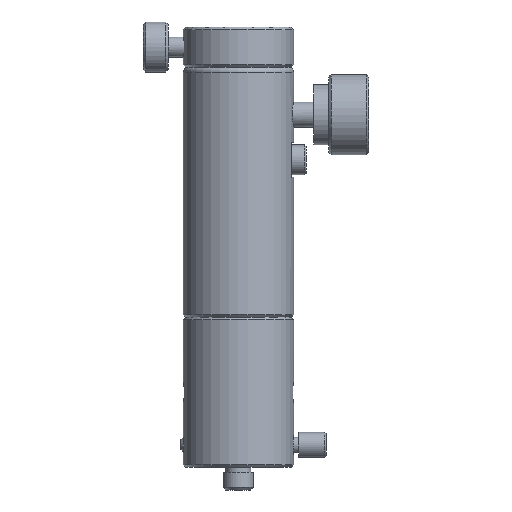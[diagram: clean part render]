
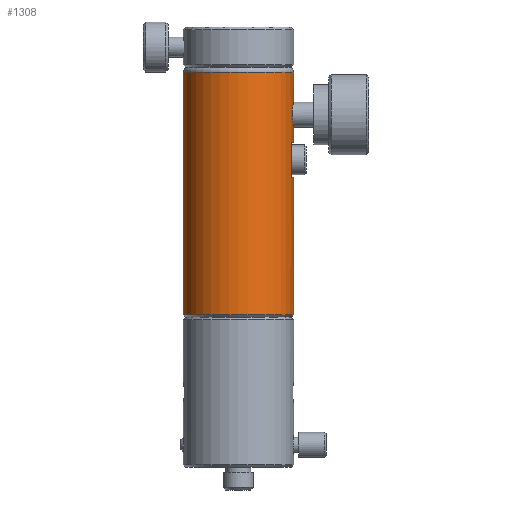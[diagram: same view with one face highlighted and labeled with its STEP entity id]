
A CAD part, left-side view. The second image highlights one B-rep face of the part: STEP entity #1308.
In plain terms, the highlighted cylindrical face has radius 11 mm (diameter 22 mm), a full revolution.
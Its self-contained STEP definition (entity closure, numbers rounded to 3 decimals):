
#27=FACE_BOUND('',#249,.T.);
#28=FACE_BOUND('',#250,.T.);
#154=FACE_OUTER_BOUND('',#248,.T.);
#248=EDGE_LOOP('',(#1024,#1025,#1026,#1027,#1028));
#249=EDGE_LOOP('',(#1029,#1030));
#250=EDGE_LOOP('',(#1031,#1032,#1033,#1034));
#342=CIRCLE('',#1475,11.);
#343=CIRCLE('',#1476,11.);
#344=CIRCLE('',#1478,11.);
#345=CIRCLE('',#1479,11.);
#346=CIRCLE('',#1480,11.);
#406=LINE('',#2399,#468);
#407=LINE('',#2402,#469);
#408=LINE('',#2406,#470);
#468=VECTOR('',#1825,11.);
#469=VECTOR('',#1826,10.);
#470=VECTOR('',#1829,10.);
#486=B_SPLINE_CURVE_WITH_KNOTS('',3,(#2050,#2051,#2052,#2053,#2054,#2055,
#2056,#2057,#2058,#2059,#2060,#2061,#2062,#2063,#2064,#2065,#2066,#2067),
 .UNSPECIFIED.,.F.,.F.,(4,2,2,2,2,2,2,2,4),(0.,0.095,0.189,
0.284,0.378,0.473,0.567,
0.662,0.756),.UNSPECIFIED.);
#487=B_SPLINE_CURVE_WITH_KNOTS('',3,(#2068,#2069,#2070,#2071,#2072,#2073,
#2074,#2075,#2076,#2077,#2078,#2079,#2080,#2081,#2082,#2083,#2084,#2085),
 .UNSPECIFIED.,.F.,.F.,(4,2,2,2,2,2,2,2,4),(0.756,0.851,
0.945,1.04,1.134,1.229,1.323,
1.418,1.512),.UNSPECIFIED.);
#534=VERTEX_POINT('',#2048);
#535=VERTEX_POINT('',#2049);
#592=VERTEX_POINT('',#2391);
#593=VERTEX_POINT('',#2392);
#594=VERTEX_POINT('',#2397);
#595=VERTEX_POINT('',#2400);
#596=VERTEX_POINT('',#2401);
#597=VERTEX_POINT('',#2403);
#598=VERTEX_POINT('',#2405);
#655=EDGE_CURVE('',#534,#535,#486,.T.);
#656=EDGE_CURVE('',#535,#534,#487,.T.);
#745=EDGE_CURVE('',#592,#593,#342,.T.);
#747=EDGE_CURVE('',#593,#592,#343,.T.);
#748=EDGE_CURVE('',#594,#594,#344,.T.);
#749=EDGE_CURVE('',#594,#593,#406,.T.);
#750=EDGE_CURVE('',#595,#596,#407,.T.);
#751=EDGE_CURVE('',#596,#597,#345,.T.);
#752=EDGE_CURVE('',#597,#598,#408,.T.);
#753=EDGE_CURVE('',#598,#595,#346,.T.);
#1024=ORIENTED_EDGE('',*,*,#748,.F.);
#1025=ORIENTED_EDGE('',*,*,#749,.T.);
#1026=ORIENTED_EDGE('',*,*,#747,.T.);
#1027=ORIENTED_EDGE('',*,*,#745,.T.);
#1028=ORIENTED_EDGE('',*,*,#749,.F.);
#1029=ORIENTED_EDGE('',*,*,#655,.T.);
#1030=ORIENTED_EDGE('',*,*,#656,.T.);
#1031=ORIENTED_EDGE('',*,*,#750,.T.);
#1032=ORIENTED_EDGE('',*,*,#751,.T.);
#1033=ORIENTED_EDGE('',*,*,#752,.T.);
#1034=ORIENTED_EDGE('',*,*,#753,.T.);
#1150=CYLINDRICAL_SURFACE('',#1477,11.);
#1308=ADVANCED_FACE('',(#154,#27,#28),#1150,.T.);
#1475=AXIS2_PLACEMENT_3D('',#2393,#1816,#1817);
#1476=AXIS2_PLACEMENT_3D('',#2395,#1819,#1820);
#1477=AXIS2_PLACEMENT_3D('',#2396,#1821,#1822);
#1478=AXIS2_PLACEMENT_3D('',#2398,#1823,#1824);
#1479=AXIS2_PLACEMENT_3D('',#2404,#1827,#1828);
#1480=AXIS2_PLACEMENT_3D('',#2407,#1830,#1831);
#1816=DIRECTION('center_axis',(0.,0.,1.));
#1817=DIRECTION('ref_axis',(-1.,0.,0.));
#1819=DIRECTION('center_axis',(0.,0.,1.));
#1820=DIRECTION('ref_axis',(-1.,0.,0.));
#1821=DIRECTION('center_axis',(0.,0.,1.));
#1822=DIRECTION('ref_axis',(-1.,0.,0.));
#1823=DIRECTION('center_axis',(0.,0.,1.));
#1824=DIRECTION('ref_axis',(-1.,0.,0.));
#1825=DIRECTION('',(0.,0.,-1.));
#1826=DIRECTION('',(0.,0.,1.));
#1827=DIRECTION('center_axis',(0.,0.,1.));
#1828=DIRECTION('ref_axis',(-1.,0.,0.));
#1829=DIRECTION('',(0.,0.,-1.));
#1830=DIRECTION('center_axis',(0.,0.,-1.));
#1831=DIRECTION('ref_axis',(-1.,0.,0.));
#2048=CARTESIAN_POINT('',(-2.5,-10.712,70.5));
#2049=CARTESIAN_POINT('',(2.5,-10.712,70.5));
#2050=CARTESIAN_POINT('Ctrl Pts',(-2.5,-10.712,70.5));
#2051=CARTESIAN_POINT('Ctrl Pts',(-2.5,-10.712,70.815));
#2052=CARTESIAN_POINT('Ctrl Pts',(-2.437,-10.727,71.15));
#2053=CARTESIAN_POINT('Ctrl Pts',(-2.181,-10.782,71.766));
#2054=CARTESIAN_POINT('Ctrl Pts',(-1.989,-10.821,72.046));
#2055=CARTESIAN_POINT('Ctrl Pts',(-1.546,-10.893,72.489));
#2056=CARTESIAN_POINT('Ctrl Pts',(-1.266,-10.931,72.681));
#2057=CARTESIAN_POINT('Ctrl Pts',(-0.65,-10.985,72.937));
#2058=CARTESIAN_POINT('Ctrl Pts',(-0.315,-11.,73.));
#2059=CARTESIAN_POINT('Ctrl Pts',(0.315,-11.,73.));
#2060=CARTESIAN_POINT('Ctrl Pts',(0.65,-10.985,72.937));
#2061=CARTESIAN_POINT('Ctrl Pts',(1.266,-10.931,72.681));
#2062=CARTESIAN_POINT('Ctrl Pts',(1.546,-10.893,72.489));
#2063=CARTESIAN_POINT('Ctrl Pts',(1.989,-10.821,72.046));
#2064=CARTESIAN_POINT('Ctrl Pts',(2.181,-10.782,71.766));
#2065=CARTESIAN_POINT('Ctrl Pts',(2.437,-10.727,71.15));
#2066=CARTESIAN_POINT('Ctrl Pts',(2.5,-10.712,70.815));
#2067=CARTESIAN_POINT('Ctrl Pts',(2.5,-10.712,70.5));
#2068=CARTESIAN_POINT('Ctrl Pts',(2.5,-10.712,70.5));
#2069=CARTESIAN_POINT('Ctrl Pts',(2.5,-10.712,70.185));
#2070=CARTESIAN_POINT('Ctrl Pts',(2.437,-10.727,69.85));
#2071=CARTESIAN_POINT('Ctrl Pts',(2.181,-10.782,69.234));
#2072=CARTESIAN_POINT('Ctrl Pts',(1.989,-10.821,68.954));
#2073=CARTESIAN_POINT('Ctrl Pts',(1.546,-10.893,68.511));
#2074=CARTESIAN_POINT('Ctrl Pts',(1.266,-10.931,68.319));
#2075=CARTESIAN_POINT('Ctrl Pts',(0.65,-10.985,68.063));
#2076=CARTESIAN_POINT('Ctrl Pts',(0.315,-11.,68.));
#2077=CARTESIAN_POINT('Ctrl Pts',(-0.315,-11.,68.));
#2078=CARTESIAN_POINT('Ctrl Pts',(-0.65,-10.985,68.063));
#2079=CARTESIAN_POINT('Ctrl Pts',(-1.266,-10.931,68.319));
#2080=CARTESIAN_POINT('Ctrl Pts',(-1.546,-10.893,68.511));
#2081=CARTESIAN_POINT('Ctrl Pts',(-1.989,-10.821,68.954));
#2082=CARTESIAN_POINT('Ctrl Pts',(-2.181,-10.782,69.234));
#2083=CARTESIAN_POINT('Ctrl Pts',(-2.437,-10.727,69.85));
#2084=CARTESIAN_POINT('Ctrl Pts',(-2.5,-10.712,70.185));
#2085=CARTESIAN_POINT('Ctrl Pts',(-2.5,-10.712,70.5));
#2391=CARTESIAN_POINT('',(0.,11.,30.5));
#2392=CARTESIAN_POINT('',(11.,0.,30.5));
#2393=CARTESIAN_POINT('Origin',(0.,0.,30.5));
#2395=CARTESIAN_POINT('Origin',(0.,0.,30.5));
#2396=CARTESIAN_POINT('Origin',(0.,0.,0.));
#2397=CARTESIAN_POINT('',(11.,0.,79.));
#2398=CARTESIAN_POINT('Origin',(0.,0.,79.));
#2399=CARTESIAN_POINT('',(11.,0.,0.));
#2400=CARTESIAN_POINT('',(-3.279,-10.5,58.));
#2401=CARTESIAN_POINT('',(-3.279,-10.5,65.));
#2402=CARTESIAN_POINT('',(-3.279,-10.5,0.));
#2403=CARTESIAN_POINT('',(3.279,-10.5,65.));
#2404=CARTESIAN_POINT('Origin',(0.,0.,65.));
#2405=CARTESIAN_POINT('',(3.279,-10.5,58.));
#2406=CARTESIAN_POINT('',(3.279,-10.5,0.));
#2407=CARTESIAN_POINT('Origin',(0.,0.,58.));
